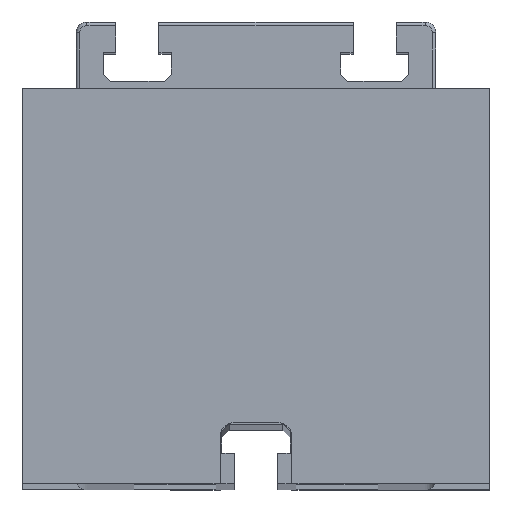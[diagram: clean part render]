
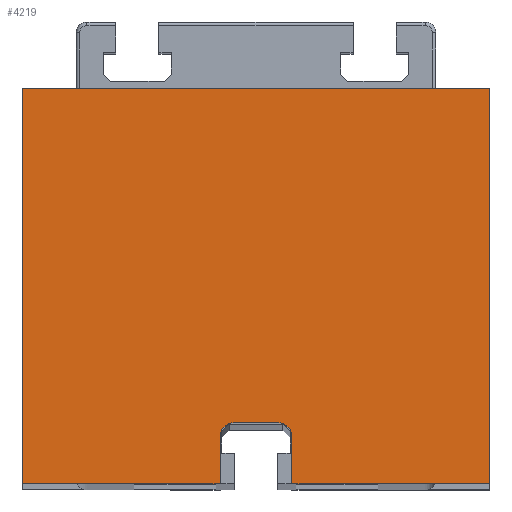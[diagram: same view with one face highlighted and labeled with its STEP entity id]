
A CAD part, top view. The second image highlights one B-rep face of the part: STEP entity #4219.
In plain terms, the highlighted planar face has unit normal (0, 0, 1).
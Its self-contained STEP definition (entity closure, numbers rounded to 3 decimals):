
#5 = VERTEX_POINT ( 'NONE', #2207 ) ;
#139 = ORIENTED_EDGE ( 'NONE', *, *, #187, .T. ) ;
#187 = EDGE_CURVE ( 'NONE', #4171, #2926, #4711, .T. ) ;
#373 = DIRECTION ( 'NONE',  ( 0., 0., -1. ) ) ;
#408 = DIRECTION ( 'NONE',  ( 1., 0., 0. ) ) ;
#562 = CARTESIAN_POINT ( 'NONE',  ( 10., 13., 20. ) ) ;
#606 = VECTOR ( 'NONE', #4467, 1000. ) ;
#834 = LINE ( 'NONE', #1862, #3912 ) ;
#836 = CARTESIAN_POINT ( 'NONE',  ( 10., 13., 20. ) ) ;
#982 = ORIENTED_EDGE ( 'NONE', *, *, #4479, .T. ) ;
#1008 = DIRECTION ( 'NONE',  ( 1., 0., 0. ) ) ;
#1013 = EDGE_CURVE ( 'NONE', #4972, #3548, #834, .T. ) ;
#1338 = ORIENTED_EDGE ( 'NONE', *, *, #1013, .T. ) ;
#1357 = ORIENTED_EDGE ( 'NONE', *, *, #4260, .T. ) ;
#1475 = CARTESIAN_POINT ( 'NONE',  ( -65., 0., 20. ) ) ;
#1491 = VECTOR ( 'NONE', #5816, 1000. ) ;
#1626 = CARTESIAN_POINT ( 'NONE',  ( 6., 13., 20. ) ) ;
#1669 = DIRECTION ( 'NONE',  ( 0., 1., 0. ) ) ;
#1691 = CIRCLE ( 'NONE', #1991, 4. ) ;
#1712 = VERTEX_POINT ( 'NONE', #2386 ) ;
#1805 = ORIENTED_EDGE ( 'NONE', *, *, #4777, .T. ) ;
#1862 = CARTESIAN_POINT ( 'NONE',  ( 65., 0., 20. ) ) ;
#1923 = CARTESIAN_POINT ( 'NONE',  ( -65., 0., 20. ) ) ;
#1940 = VECTOR ( 'NONE', #4840, 1000. ) ;
#1941 = DIRECTION ( 'NONE',  ( 0., -1., 0. ) ) ;
#1991 = AXIS2_PLACEMENT_3D ( 'NONE', #4973, #2534, #6105 ) ;
#2014 = ORIENTED_EDGE ( 'NONE', *, *, #3459, .T. ) ;
#2109 = PLANE ( 'NONE',  #5178 ) ;
#2200 = CIRCLE ( 'NONE', #2304, 4. ) ;
#2207 = CARTESIAN_POINT ( 'NONE',  ( -65., 0., 20. ) ) ;
#2216 = VERTEX_POINT ( 'NONE', #3510 ) ;
#2304 = AXIS2_PLACEMENT_3D ( 'NONE', #4836, #373, #408 ) ;
#2386 = CARTESIAN_POINT ( 'NONE',  ( -65., 110., 20. ) ) ;
#2455 = LINE ( 'NONE', #1475, #6098 ) ;
#2491 = LINE ( 'NONE', #1923, #1491 ) ;
#2534 = DIRECTION ( 'NONE',  ( 0., 0., -1. ) ) ;
#2624 = CARTESIAN_POINT ( 'NONE',  ( -6., 17., 20. ) ) ;
#2769 = DIRECTION ( 'NONE',  ( 0., 1., 0. ) ) ;
#2926 = VERTEX_POINT ( 'NONE', #3399 ) ;
#2952 = EDGE_CURVE ( 'NONE', #2926, #5499, #1691, .T. ) ;
#3130 = ORIENTED_EDGE ( 'NONE', *, *, #5110, .T. ) ;
#3209 = EDGE_LOOP ( 'NONE', ( #3514, #2014, #4615, #1357, #139, #4238, #1805, #3130, #1338, #982 ) ) ;
#3297 = CARTESIAN_POINT ( 'NONE',  ( -6., 17., 20. ) ) ;
#3303 = CARTESIAN_POINT ( 'NONE',  ( -10., 0., 20. ) ) ;
#3399 = CARTESIAN_POINT ( 'NONE',  ( 6., 17., 20. ) ) ;
#3425 = LINE ( 'NONE', #5391, #3874 ) ;
#3459 = EDGE_CURVE ( 'NONE', #5, #4028, #2491, .T. ) ;
#3510 = CARTESIAN_POINT ( 'NONE',  ( 10., 0., 20. ) ) ;
#3514 = ORIENTED_EDGE ( 'NONE', *, *, #4131, .T. ) ;
#3548 = VERTEX_POINT ( 'NONE', #5688 ) ;
#3572 = CARTESIAN_POINT ( 'NONE',  ( -65., 110., 20. ) ) ;
#3683 = LINE ( 'NONE', #4720, #5829 ) ;
#3874 = VECTOR ( 'NONE', #1008, 1000. ) ;
#3912 = VECTOR ( 'NONE', #2769, 1000. ) ;
#4028 = VERTEX_POINT ( 'NONE', #3303 ) ;
#4041 = LINE ( 'NONE', #562, #606 ) ;
#4131 = EDGE_CURVE ( 'NONE', #1712, #5, #2455, .T. ) ;
#4156 = VECTOR ( 'NONE', #6085, 1000. ) ;
#4168 = DIRECTION ( 'NONE',  ( -1., 0., 0. ) ) ;
#4171 = VERTEX_POINT ( 'NONE', #2624 ) ;
#4180 = CARTESIAN_POINT ( 'NONE',  ( -10., 13., 20. ) ) ;
#4219 = ADVANCED_FACE ( 'NONE', ( #6094 ), #2109, .F. ) ;
#4238 = ORIENTED_EDGE ( 'NONE', *, *, #2952, .T. ) ;
#4260 = EDGE_CURVE ( 'NONE', #5927, #4171, #2200, .T. ) ;
#4467 = DIRECTION ( 'NONE',  ( 0., -1., 0. ) ) ;
#4479 = EDGE_CURVE ( 'NONE', #3548, #1712, #5155, .T. ) ;
#4615 = ORIENTED_EDGE ( 'NONE', *, *, #4916, .T. ) ;
#4711 = LINE ( 'NONE', #3297, #1940 ) ;
#4720 = CARTESIAN_POINT ( 'NONE',  ( -10., 13., 20. ) ) ;
#4777 = EDGE_CURVE ( 'NONE', #5499, #2216, #4041, .T. ) ;
#4836 = CARTESIAN_POINT ( 'NONE',  ( -6., 13., 20. ) ) ;
#4840 = DIRECTION ( 'NONE',  ( 1., 0., 0. ) ) ;
#4916 = EDGE_CURVE ( 'NONE', #4028, #5927, #3683, .T. ) ;
#4972 = VERTEX_POINT ( 'NONE', #5298 ) ;
#4973 = CARTESIAN_POINT ( 'NONE',  ( 6., 13., 20. ) ) ;
#5055 = DIRECTION ( 'NONE',  ( 0., 0., -1. ) ) ;
#5110 = EDGE_CURVE ( 'NONE', #2216, #4972, #3425, .T. ) ;
#5155 = LINE ( 'NONE', #3572, #4156 ) ;
#5178 = AXIS2_PLACEMENT_3D ( 'NONE', #1626, #5055, #4168 ) ;
#5298 = CARTESIAN_POINT ( 'NONE',  ( 65., 0., 20. ) ) ;
#5391 = CARTESIAN_POINT ( 'NONE',  ( 10., 0., 20. ) ) ;
#5499 = VERTEX_POINT ( 'NONE', #836 ) ;
#5688 = CARTESIAN_POINT ( 'NONE',  ( 65., 110., 20. ) ) ;
#5816 = DIRECTION ( 'NONE',  ( 1., 0., 0. ) ) ;
#5829 = VECTOR ( 'NONE', #1669, 1000. ) ;
#5927 = VERTEX_POINT ( 'NONE', #4180 ) ;
#6085 = DIRECTION ( 'NONE',  ( -1., 0., 0. ) ) ;
#6094 = FACE_OUTER_BOUND ( 'NONE', #3209, .T. ) ;
#6098 = VECTOR ( 'NONE', #1941, 1000. ) ;
#6105 = DIRECTION ( 'NONE',  ( -1., 0., 0. ) ) ;
